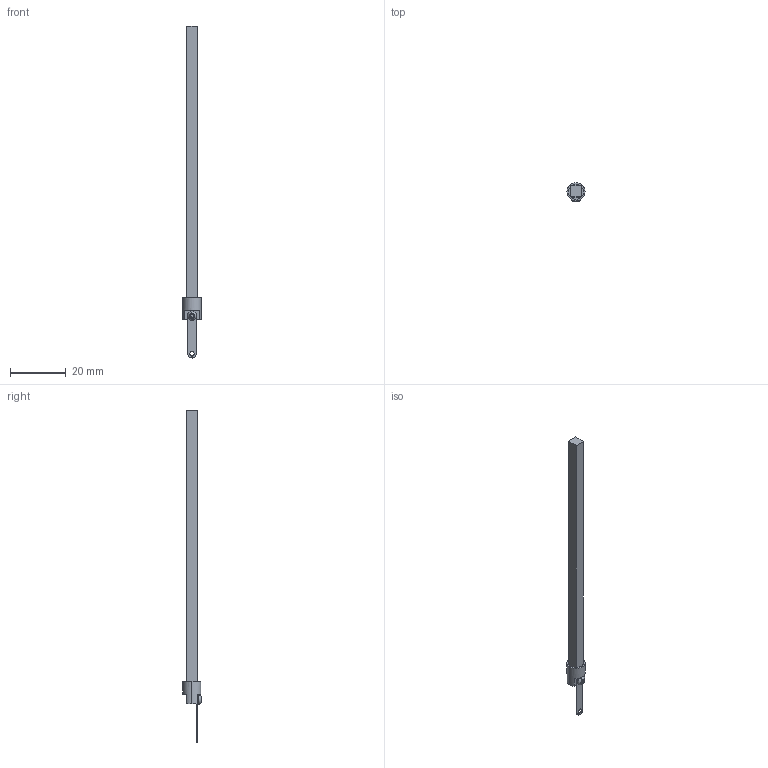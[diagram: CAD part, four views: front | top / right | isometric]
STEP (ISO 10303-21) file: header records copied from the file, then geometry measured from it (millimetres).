
FILE_DESCRIPTION (( 'STEP AP214' ), '1' );
FILE_NAME ('LL06_DriveRod_101M1-PiezoMotor.STEP', '2017-03-14T06:51:29', ( '' ), ( '' ), 'SwSTEP 2.0', 'SolidWorks 2016', '' );
FILE_SCHEMA (( 'AUTOMOTIVE_DESIGN' ));
Length unit declared in the file: millimetre
Products named in the file (1): LL06_DriveRod_101M1-PiezoMotor
Bounding box: 6.5 x 6.65 x 118.95 mm (x, y, z)
Volume: 1613 mm3; surface area: 1998.3 mm2
Topology: 4 solids, 4 shells, 62 faces, 145 edges, 93 vertices
Faces by surface type: cylinder 31, plane 21, cone 8, torus 2
Entity records: 1884 total; most frequent: DIRECTION 347, CARTESIAN_POINT 299, ORIENTED_EDGE 286, EDGE_CURVE 143, AXIS2_PLACEMENT_3D 141, VERTEX_POINT 93, CIRCLE 78, EDGE_LOOP 72
